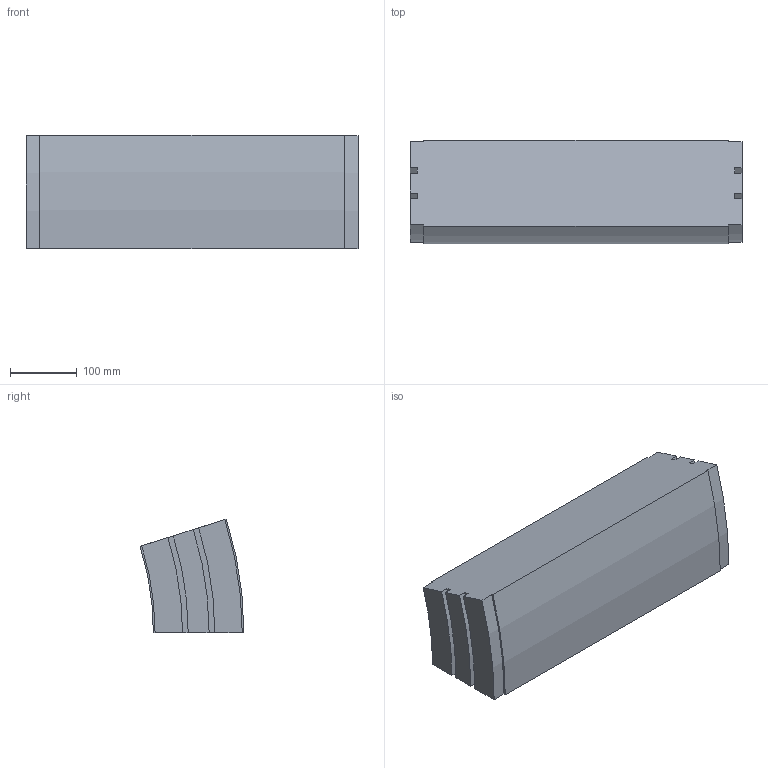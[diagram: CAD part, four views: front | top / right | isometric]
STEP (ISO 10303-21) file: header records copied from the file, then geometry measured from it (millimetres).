
FILE_DESCRIPTION (( 'STEP AP214' ), '1' );
FILE_NAME ('02.150V17.500.N FS-500-MTC-150 Bocht verticaal 17,5°.STEP', '2013-03-29T13:06:30', ( 'Gebruiker' ), ( '' ), 'SwSTEP 2.0', 'SolidWorks 2012', '' );
FILE_SCHEMA (( 'AUTOMOTIVE_DESIGN' ));
Length unit declared in the file: millimetre
Products named in the file (1): 02.150V17.500.N FS-500-MTC-150 Bocht verticaal 17,5°
Bounding box: 499 x 155.99 x 170.8 mm (x, y, z)
Volume: 10274753.3 mm3; surface area: 341948.7 mm2
Topology: 1 solids, 1 shells, 30 faces, 84 edges, 56 vertices
Faces by surface type: plane 16, cylinder 14
Entity records: 1010 total; most frequent: DIRECTION 174, CARTESIAN_POINT 171, ORIENTED_EDGE 168, EDGE_CURVE 84, AXIS2_PLACEMENT_3D 59, VERTEX_POINT 56, LINE 56, VECTOR 56
